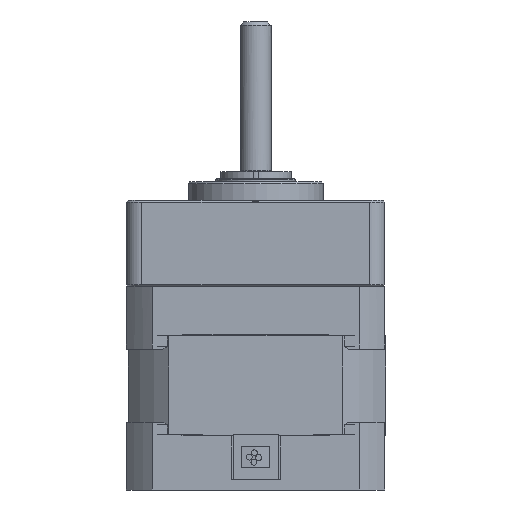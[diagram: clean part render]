
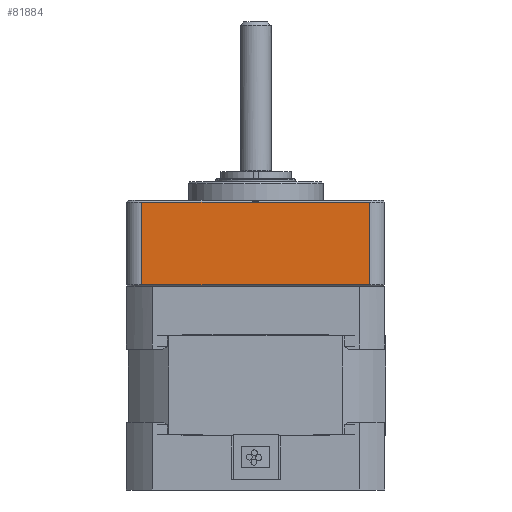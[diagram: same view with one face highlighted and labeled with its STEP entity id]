
A CAD part, front view. The second image highlights one B-rep face of the part: STEP entity #81884.
In plain terms, the highlighted planar face has unit normal (0, -1, 0).
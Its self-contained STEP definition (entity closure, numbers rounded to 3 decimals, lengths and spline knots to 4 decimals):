
#414=LINE('',#118386,#7246);
#443=LINE('',#118504,#7275);
#451=LINE('',#118555,#7283);
#452=LINE('',#118557,#7284);
#7246=VECTOR('',#93977,1.4567);
#7275=VECTOR('',#94110,1.4567);
#7283=VECTOR('',#94188,0.5276);
#7284=VECTOR('',#94191,0.5276);
#15613=PLANE('',#85612);
#17589=FACE_OUTER_BOUND('',#21124,.T.);
#21124=EDGE_LOOP('',(#51675,#51676,#51677,#51678));
#29820=VERTEX_POINT('',#118383);
#29821=VERTEX_POINT('',#118385);
#29857=VERTEX_POINT('',#118496);
#29858=VERTEX_POINT('',#118500);
#38459=EDGE_CURVE('',#29821,#29820,#414,.T.);
#38521=EDGE_CURVE('',#29858,#29857,#443,.T.);
#38544=EDGE_CURVE('',#29858,#29820,#451,.T.);
#38545=EDGE_CURVE('',#29857,#29821,#452,.T.);
#51675=ORIENTED_EDGE('',*,*,#38544,.F.);
#51676=ORIENTED_EDGE('',*,*,#38521,.T.);
#51677=ORIENTED_EDGE('',*,*,#38545,.T.);
#51678=ORIENTED_EDGE('',*,*,#38459,.T.);
#81884=ADVANCED_FACE('',(#17589),#15613,.F.);
#85612=AXIS2_PLACEMENT_3D('',#118556,#94189,#94190);
#93977=DIRECTION('',(-1.,0.,0.));
#94110=DIRECTION('',(1.,0.,0.));
#94188=DIRECTION('',(0.,0.,1.));
#94189=DIRECTION('center_axis',(0.,1.,0.));
#94190=DIRECTION('ref_axis',(0.,0.,1.));
#94191=DIRECTION('',(0.,0.,1.));
#118383=CARTESIAN_POINT('',(-0.7283,-0.8268,0.9394));
#118385=CARTESIAN_POINT('',(0.7283,-0.8268,0.9394));
#118386=CARTESIAN_POINT('',(0.7283,-0.8268,0.9394));
#118496=CARTESIAN_POINT('',(0.7283,-0.8268,0.4118));
#118500=CARTESIAN_POINT('',(-0.7283,-0.8268,0.4118));
#118504=CARTESIAN_POINT('',(-0.7283,-0.8268,0.4118));
#118555=CARTESIAN_POINT('',(-0.7283,-0.8268,0.4118));
#118556=CARTESIAN_POINT('Origin',(-0.7283,-0.8268,
0.4));
#118557=CARTESIAN_POINT('',(0.7283,-0.8268,0.4118));
